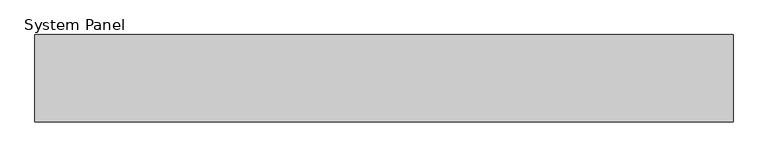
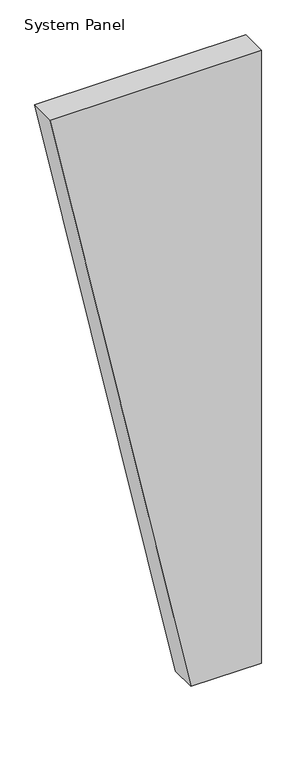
"""IFC4 building model written with IfcOpenShell, lengths in millimetres: plate geometry, System Panel : Equitilt 150mm Vertical - Plain RHEA - MW."""

from ifc_helpers import new_model, si_unit, frame, origin, place, context, project, spatial, polyline, outline, extrude, source, transform, mapped, element, save


def system_panel_110e811f(model_context):
    return source(origin(), model_context, "Body", "SweptSolid", [
        extrude(outline(polyline([(0.0, 200.0), (0.0, 600.0), (3679.9704237, 600.0), (3679.9704237, -600.0), (0.0, 200.0)])), frame((0.0, -150.0, 0.0), z_axis=(0.0, 1.0, 0.0), x_axis=(0.0, 0.0, 1.0)), (0.0, 0.0, 1.0), 150.0),
    ])


if __name__ == "__main__":
    model = new_model("IFC4")
    model_context = context("Model", 3, world=origin())
    ifc_project = project(units=[si_unit("LENGTHUNIT", "METRE", prefix="MILLI")], contexts=[model_context])
    site = spatial("IfcSite", under=ifc_project)
    building = spatial("IfcBuilding", under=site)
    placement = place(None, origin())
    system_panel_shape = system_panel_110e811f(model_context)
    element("IfcPlate", 1, ObjectType="System Panel : Equitilt 150mm Vertical - Plain RHEA - MW", at=placement, inside=building, context=model_context, shape_type="MappedRepresentation", body=[
        mapped(system_panel_shape, transform((0.0, 0.0, 0.0), x_axis=(1.0, 0.0, 0.0), y_axis=(0.0, 1.0, 0.0), z_axis=(0.0, 0.0, 1.0))),
    ])
    save(model, "model.ifc")
